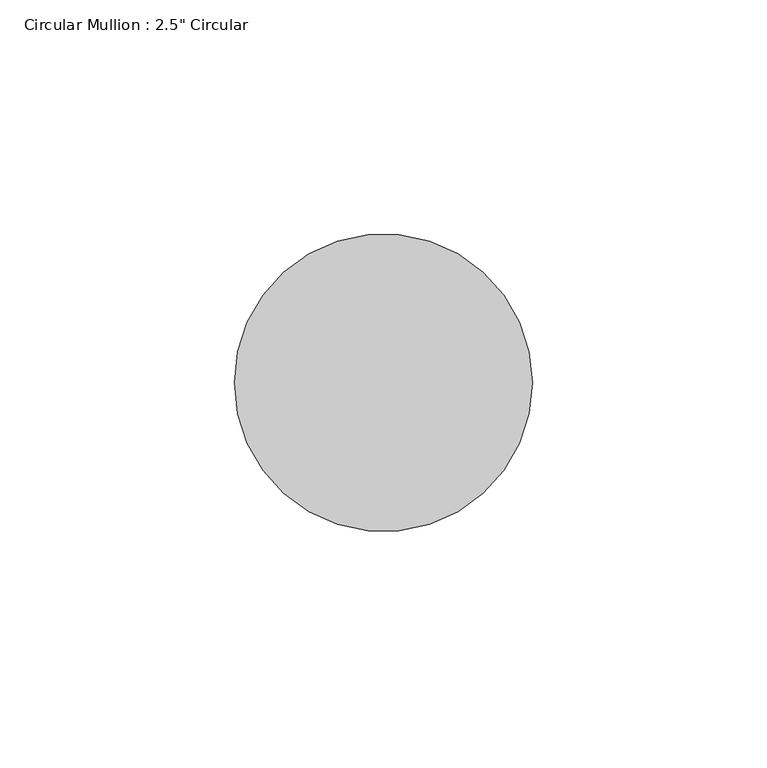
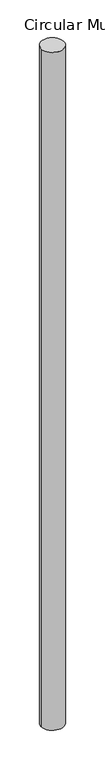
"""IFC4 building model written with IfcOpenShell, lengths in millimetres: member geometry."""

from ifc_helpers import new_model, si_unit, point, frame, origin, origin_2d, place, context, project, spatial, circle_curve, trimmed, segment, composite_curve, outline, extrude, source, transform, mapped, element, save


def member_bf9f9b58(model_context):
    return source(origin(), model_context, "Body", "SweptSolid", [
        extrude(outline(composite_curve([segment(trimmed(circle_curve(origin_2d(), 31.75), [point((31.75, 0.0))], [point((-31.75, 0.0))], False, "CARTESIAN"), True, "CONTINUOUS"), segment(trimmed(circle_curve(origin_2d(), 31.75), [point((-31.75, 0.0))], [point((31.75, 0.0))], False, "CARTESIAN"), True, "CONTINUOUS")], self_intersect=False)), frame((0.0, 0.0, -2016.6331591), z_axis=(0.0, 0.0, 1.0), x_axis=(1.0, 0.0, 0.0)), (0.0, 0.0, 1.0), 2016.6331591),
    ])


if __name__ == "__main__":
    model = new_model("IFC4")
    model_context = context("Model", 3, world=origin())
    ifc_project = project(units=[si_unit("LENGTHUNIT", "METRE", prefix="MILLI")], contexts=[model_context])
    site = spatial("IfcSite", under=ifc_project)
    building = spatial("IfcBuilding", under=site)
    placement = place(None, origin())
    member_shape = member_bf9f9b58(model_context)
    element("IfcMember", 1, ObjectType="Circular Mullion : 2.5\" Circular", at=placement, inside=building, context=model_context, shape_type="MappedRepresentation", body=[
        mapped(member_shape, transform((0.0, 0.0, 0.0), x_axis=(1.0, 0.0, 0.0), y_axis=(0.0, 1.0, 0.0), z_axis=(0.0, 0.0, 1.0))),
    ])
    save(model, "model.ifc")
